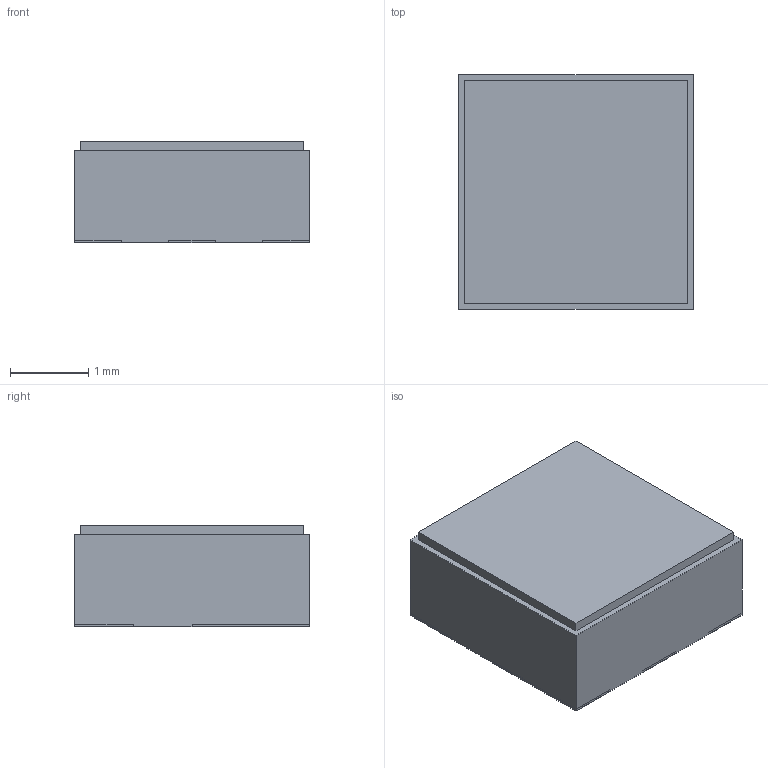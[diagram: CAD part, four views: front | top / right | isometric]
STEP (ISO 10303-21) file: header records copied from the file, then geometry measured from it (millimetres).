
FILE_DESCRIPTION(('Open CASCADE Model'),'2;1');
FILE_NAME('Open CASCADE Shape Model','2026-10-10T23:56:43',('Author'),( 'Open CASCADE'),'Open CASCADE STEP processor 7.9','Open CASCADE 7.9' ,'Unknown');
FILE_SCHEMA(('AUTOMOTIVE_DESIGN { 1 0 10303 214 1 1 1 1 }'));
Length unit declared in the file: millimetre
Products named in the file (9): S869M000S003_Approx; representative_ceramic_body; representative_metal_lid; terminal_1; terminal_2; terminal_3; terminal_4; terminal_5; terminal_6
Assembly tree (8 placements, depth 2):
  S869M000S003_Approx
    representative_ceramic_body
    representative_metal_lid
    terminal_1
    terminal_2
    terminal_3
    terminal_4
    terminal_5
    terminal_6
Bounding box: 3 x 3 x 1.3 mm (x, y, z)
Volume: 11.7 mm3; surface area: 56.6 mm2
Topology: 8 solids, 8 shells, 48 faces, 96 edges, 64 vertices
Faces by surface type: plane 48
Entity records: 2675 total; most frequent: CARTESIAN_POINT 409, DIRECTION 402, LINE 288, VECTOR 288, ORIENTED_EDGE 192, PCURVE 192, DEFINITIONAL_REPRESENTATION 192, EDGE_CURVE 96
